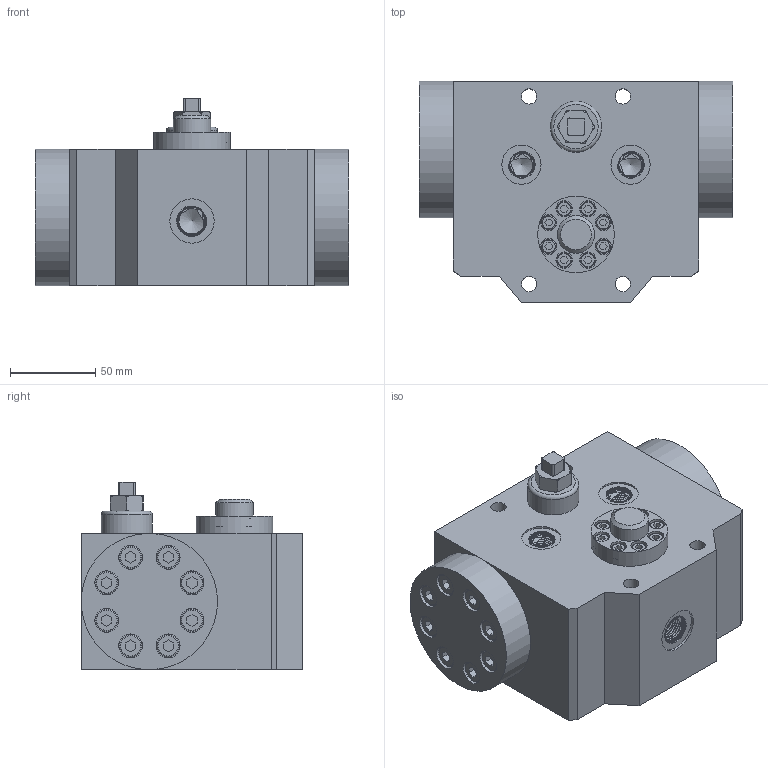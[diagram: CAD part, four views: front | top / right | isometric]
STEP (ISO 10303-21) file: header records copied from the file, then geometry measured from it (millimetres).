
FILE_DESCRIPTION(/* description */ (''),/* implementation_level */ '2;1');
FILE_NAME(/* name */ '13-1.prt.stp',/* time_stamp */ '2023-05-03T14:22:54+08:00',/* author */ (''),/* organization */ (''),/* preprocessor_version */ 'ST-DEVELOPER v16.7',/* originating_system */ 'SIEMENS PLM Software NX 12.0',/* authorisation */ '');
FILE_SCHEMA (('AUTOMOTIVE_DESIGN { 1 0 10303 214 3 1 1 1 }'));
Products named in the file (1): 13-1
Bounding box: 184 x 130 x 110 mm (x, y, z)
Volume: 1582762.3 mm3; surface area: 189713.9 mm2
Topology: 32 solids, 32 shells, 700 faces, 1713 edges, 1129 vertices
Faces by surface type: plane 404, cylinder 194, cone 53, torus 37, bspline 12
Full cylindrical faces by diameter (mm): 4.2 x8, 5 x8, 5.5 x8, 6.8 x16, 8 x16, 8.5 x8, 9 x20, 9.5 x8, 13 x16, 14 x16, 22 x2, 23 x2, 26 x2, 30 x1, 45 x1, 80 x2
Entity records: 42496 total; most frequent: CARTESIAN_POINT 26918, DIRECTION 3160, ORIENTED_EDGE 2724, EDGE_CURVE 1362, AXIS2_PLACEMENT_3D 1183, EDGE_LOOP 1094, VERTEX_POINT 1042, LINE 794
